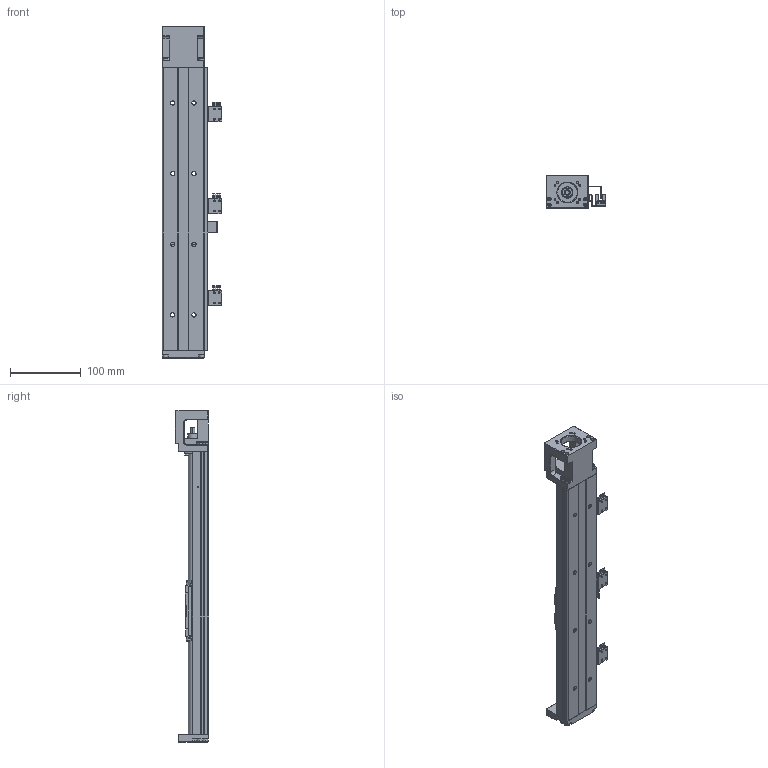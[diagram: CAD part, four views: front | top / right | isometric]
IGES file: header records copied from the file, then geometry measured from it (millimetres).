
Start section: SolidWorks IGES file using analytic representation for surfaces
Global section: file name: C:\Users\Administrator\Desktop\600L\ﾎﾞｻｬﾌｨ\GSX60C-MF-400L-ﾎﾞｻｬﾌｨ.IGS; native system: SolidWorks 2013; preprocessor: SolidWorks 2013; author: ｹｾﾇｿ,; organization: 11; date: 170411.090455; units: millimetre
Bounding box: 84.5 x 47 x 470 mm (x, y, z)
Surface area: 183104.1 mm2 (no closed solid volume)
Topology: 0 solids, 0 shells, 1306 faces, 16061 edges, 15948 vertices
Faces by surface type: bspline 756, revolution 550
